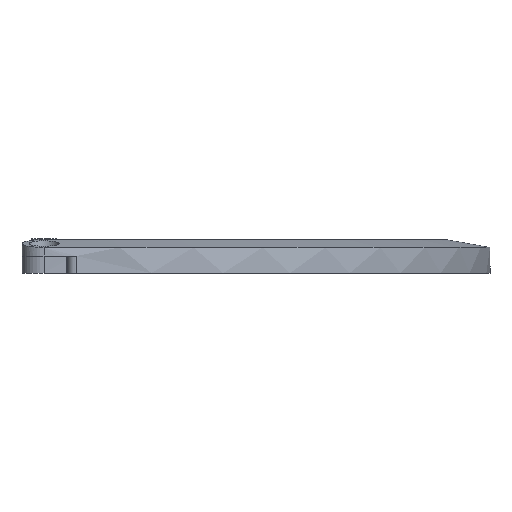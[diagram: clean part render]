
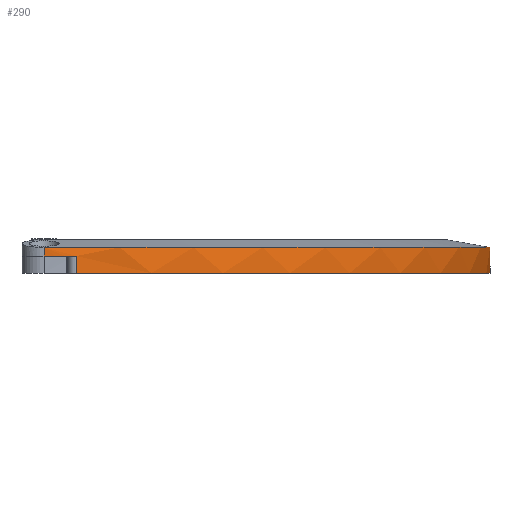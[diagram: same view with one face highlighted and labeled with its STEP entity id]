
A CAD part, front view. The second image highlights one B-rep face of the part: STEP entity #290.
In plain terms, the highlighted cylindrical face has radius 26 mm (diameter 52 mm), a partial arc.
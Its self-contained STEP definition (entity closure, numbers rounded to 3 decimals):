
#26=FACE_OUTER_BOUND('',#43,.T.);
#43=EDGE_LOOP('',(#206,#207,#208,#209,#210,#211,#212,#213));
#66=LINE('',#460,#80);
#72=LINE('',#546,#86);
#73=LINE('',#550,#87);
#74=LINE('',#554,#88);
#80=VECTOR('',#364,0.5);
#86=VECTOR('',#388,1.);
#87=VECTOR('',#391,1.);
#88=VECTOR('',#394,0.5);
#100=CIRCLE('',#328,26.);
#101=CIRCLE('',#329,26.);
#102=CIRCLE('',#330,26.);
#103=CIRCLE('',#331,26.);
#117=VERTEX_POINT('',#456);
#119=VERTEX_POINT('',#459);
#130=VERTEX_POINT('',#543);
#131=VERTEX_POINT('',#545);
#132=VERTEX_POINT('',#547);
#133=VERTEX_POINT('',#549);
#134=VERTEX_POINT('',#551);
#135=VERTEX_POINT('',#553);
#147=EDGE_CURVE('',#119,#117,#66,.T.);
#161=EDGE_CURVE('',#130,#117,#100,.T.);
#162=EDGE_CURVE('',#130,#131,#72,.T.);
#163=EDGE_CURVE('',#131,#132,#101,.T.);
#164=EDGE_CURVE('',#133,#132,#73,.T.);
#165=EDGE_CURVE('',#133,#134,#102,.T.);
#166=EDGE_CURVE('',#134,#135,#74,.F.);
#167=EDGE_CURVE('',#135,#119,#103,.F.);
#206=ORIENTED_EDGE('',*,*,#161,.F.);
#207=ORIENTED_EDGE('',*,*,#162,.T.);
#208=ORIENTED_EDGE('',*,*,#163,.T.);
#209=ORIENTED_EDGE('',*,*,#164,.F.);
#210=ORIENTED_EDGE('',*,*,#165,.T.);
#211=ORIENTED_EDGE('',*,*,#166,.T.);
#212=ORIENTED_EDGE('',*,*,#167,.T.);
#213=ORIENTED_EDGE('',*,*,#147,.T.);
#278=CYLINDRICAL_SURFACE('',#327,26.);
#290=ADVANCED_FACE('',(#26),#278,.T.);
#327=AXIS2_PLACEMENT_3D('',#542,#384,#385);
#328=AXIS2_PLACEMENT_3D('',#544,#386,#387);
#329=AXIS2_PLACEMENT_3D('',#548,#389,#390);
#330=AXIS2_PLACEMENT_3D('',#552,#392,#393);
#331=AXIS2_PLACEMENT_3D('',#555,#395,#396);
#364=DIRECTION('',(0.,0.,-1.));
#384=DIRECTION('center_axis',(0.,0.,-1.));
#385=DIRECTION('ref_axis',(1.,0.,0.));
#386=DIRECTION('center_axis',(0.,0.,-1.));
#387=DIRECTION('ref_axis',(-1.,0.,0.));
#388=DIRECTION('',(0.,0.,-1.));
#389=DIRECTION('center_axis',(0.,0.,1.));
#390=DIRECTION('ref_axis',(1.,0.,0.));
#391=DIRECTION('',(0.,0.,-1.));
#392=DIRECTION('center_axis',(0.,0.,-1.));
#393=DIRECTION('ref_axis',(-1.,0.,0.));
#394=DIRECTION('',(0.,0.,-1.));
#395=DIRECTION('center_axis',(0.,0.,1.));
#396=DIRECTION('ref_axis',(1.,0.,0.));
#456=CARTESIAN_POINT('',(0.,-26.,1.));
#459=CARTESIAN_POINT('',(0.,-26.,1.5));
#460=CARTESIAN_POINT('',(0.,-26.,1.5));
#542=CARTESIAN_POINT('Origin',(0.,0.,2.));
#543=CARTESIAN_POINT('',(1.875,-25.932,1.));
#544=CARTESIAN_POINT('Origin',(0.,0.,1.));
#545=CARTESIAN_POINT('',(1.875,-25.932,0.));
#546=CARTESIAN_POINT('',(1.875,-25.932,1.));
#547=CARTESIAN_POINT('',(0.,26.,0.));
#548=CARTESIAN_POINT('Origin',(0.,0.,0.));
#549=CARTESIAN_POINT('',(0.,26.,1.));
#550=CARTESIAN_POINT('',(0.,26.,1.));
#551=CARTESIAN_POINT('',(1.875,25.932,1.));
#552=CARTESIAN_POINT('Origin',(0.,0.,1.));
#553=CARTESIAN_POINT('',(1.875,25.932,1.5));
#554=CARTESIAN_POINT('',(1.875,25.932,1.5));
#555=CARTESIAN_POINT('Origin',(0.,0.,1.5));
